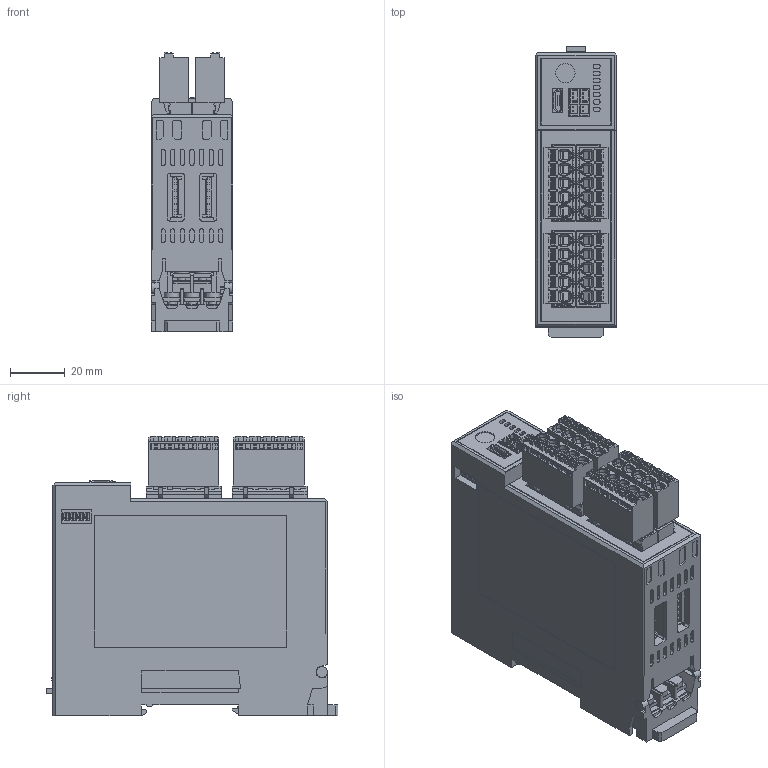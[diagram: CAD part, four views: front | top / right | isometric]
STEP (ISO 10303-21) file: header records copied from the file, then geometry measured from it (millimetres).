
FILE_DESCRIPTION (( 'STEP AP214' ), '1' );
FILE_NAME ('QTC1-4PorCC_251111.STEP', '2025-11-11T06:52:58', ( '' ), ( '' ), 'SwSTEP 2.0', 'SolidWorks 2022', '' );
FILE_SCHEMA (( 'AUTOMOTIVE_DESIGN' ));
Length unit declared in the file: millimetre
Products named in the file (3): QTC1-40C_251110; QTC1-4PorCC_251111; DINKLE_2ess-05P_new
Assembly tree (5 placements, depth 2):
  QTC1-4PorCC_251111
    QTC1-40C_251110
    DINKLE_2ess-05P_new  x4
Bounding box: 29.8 x 106.35 x 102 mm (x, y, z)
Volume: 238435.7 mm3; surface area: 56918.9 mm2
Topology: 5 solids, 77 shells, 6642 faces, 16454 edges, 10198 vertices
Faces by surface type: plane 3635, cylinder 1945, bspline 448, torus 264, sphere 208, cone 142
Entity records: 108498 total; most frequent: CARTESIAN_POINT 30029, ORIENTED_EDGE 16302, DIRECTION 15414, EDGE_CURVE 8151, LINE 6020, VECTOR 6020, VERTEX_POINT 5209, AXIS2_PLACEMENT_3D 4697
